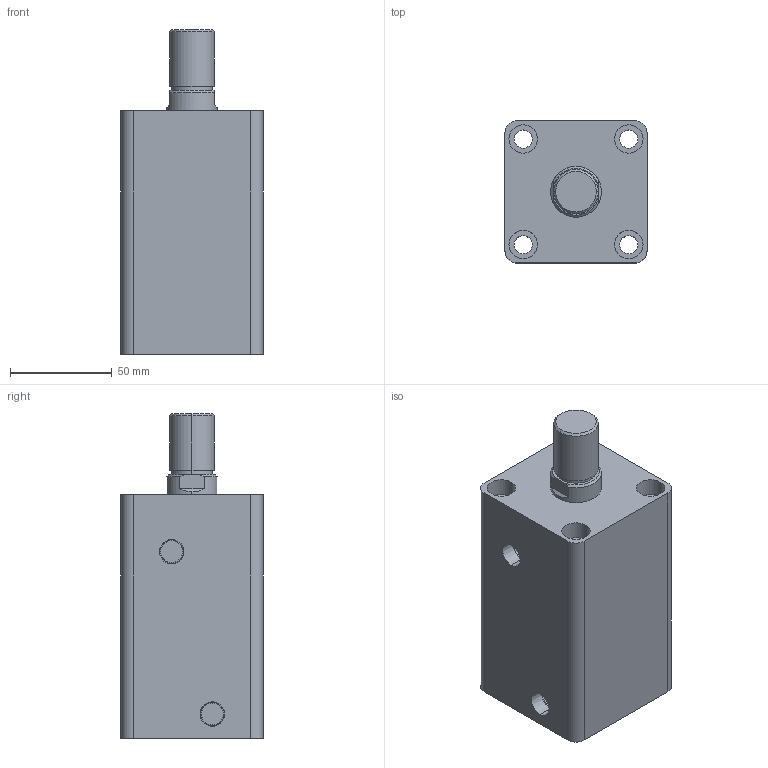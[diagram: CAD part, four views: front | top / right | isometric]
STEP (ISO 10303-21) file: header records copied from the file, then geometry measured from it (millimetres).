
FILE_DESCRIPTION (( 'STEP AP203' ), '1' );
FILE_NAME ('HTB-SD40-65W.STEP', '2019-10-07T06:54:43', ( '微软用户' ), ( '微软中国' ), 'SwSTEP 2.0', 'SolidWorks 2012', '' );
FILE_SCHEMA (( 'CONFIG_CONTROL_DESIGN' ));
Length unit declared in the file: millimetre
Products named in the file (3): HTB-SD40-65W; HTB-SD40-65W活塞杆; HTB-SD40-65掛极
Assembly tree (2 placements, depth 2):
  HTB-SD40-65W
    HTB-SD40-65掛极
    HTB-SD40-65W活塞杆
Bounding box: 70 x 70 x 160 mm (x, y, z)
Volume: 511460 mm3; surface area: 85882.9 mm2
Topology: 2 solids, 2 shells, 85 faces, 186 edges, 122 vertices
Faces by surface type: cylinder 44, plane 29, cone 8, torus 4
Entity records: 2709 total; most frequent: DIRECTION 466, CARTESIAN_POINT 426, ORIENTED_EDGE 372, AXIS2_PLACEMENT_3D 198, EDGE_CURVE 186, VERTEX_POINT 122, EDGE_LOOP 110, CIRCLE 108
